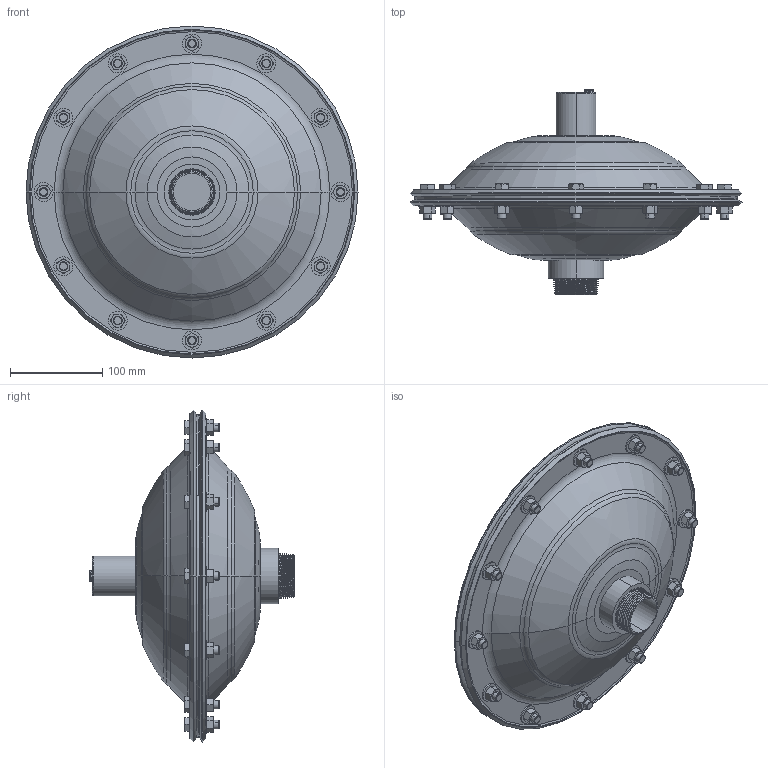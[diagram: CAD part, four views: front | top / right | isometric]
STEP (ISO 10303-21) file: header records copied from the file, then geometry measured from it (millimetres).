
FILE_DESCRIPTION (( 'STEP AP203' ), '1' );
FILE_NAME ('ISD420 1.STEP', '2022-07-04T17:21:38', ( '' ), ( '' ), 'SwSTEP 2.0', 'SolidWorks 2019', '' );
FILE_SCHEMA (( 'CONFIG_CONTROL_DESIGN' ));
Products named in the file (1): ISD420 1
Bounding box: 360.68 x 223.55 x 360.68 mm (x, y, z)
Volume: 6276249.3 mm3; surface area: 348565.3 mm2
Topology: 1 solids, 1 shells, 1049 faces, 2344 edges, 1419 vertices
Faces by surface type: plane 347, cone 297, cylinder 283, torus 103, bspline 19
Entity records: 54677 total; most frequent: CARTESIAN_POINT 31865, DIRECTION 4742, ORIENTED_EDGE 4688, EDGE_CURVE 2344, AXIS2_PLACEMENT_3D 2022, VERTEX_POINT 1419, EDGE_LOOP 1195, FACE_OUTER_BOUND 1049
